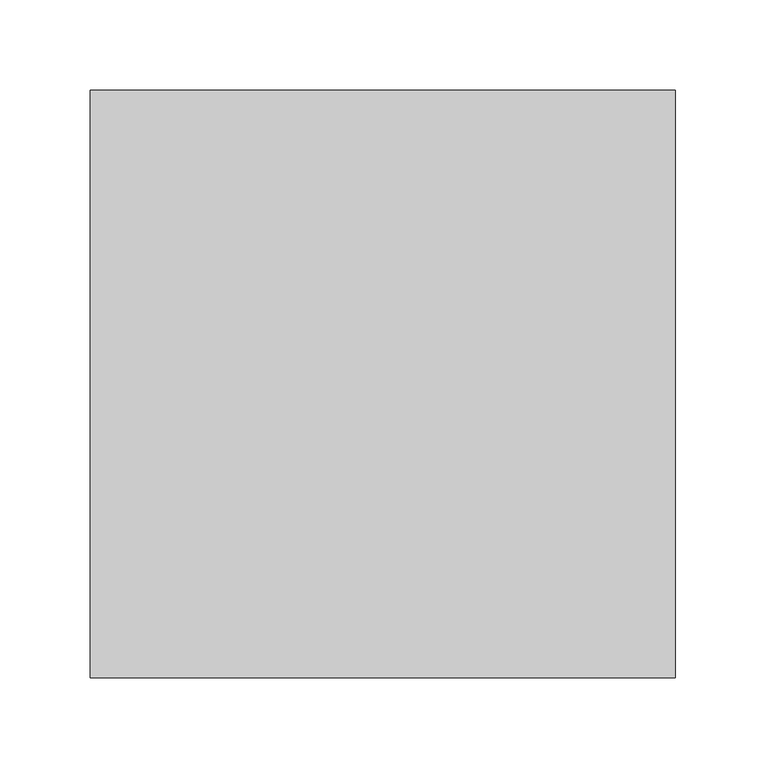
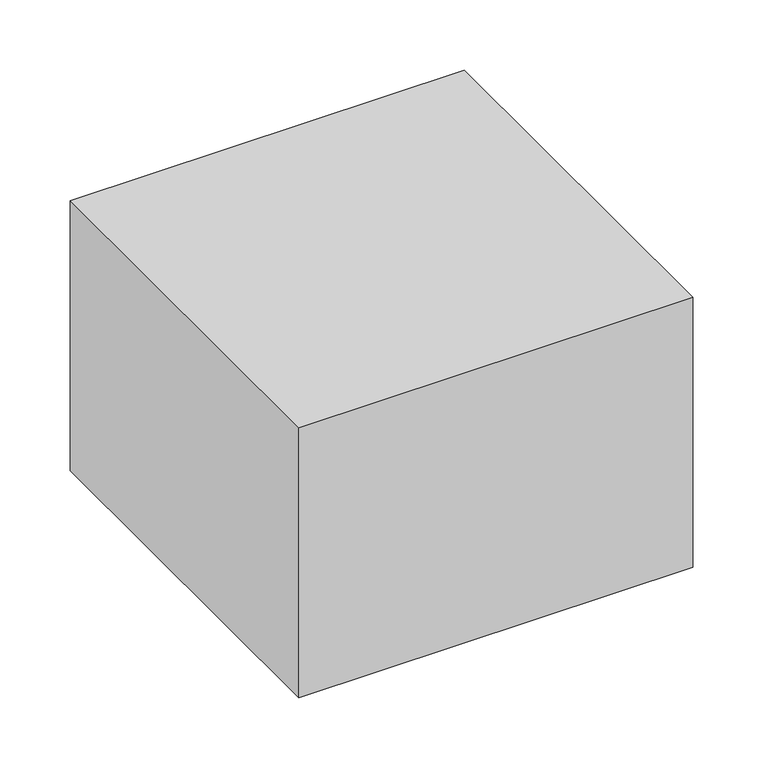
"""IFC4 building model written with IfcOpenShell, lengths in millimetres: column geometry, Column Encasement13 : Column Encasement."""

from ifc_helpers import new_model, si_unit, frame, origin, place, context, project, spatial, polyline, outline, extrude, source, transform, mapped, element, save


def column_8a827cf4(model_context):
    return source(origin(), model_context, "Body", "SweptSolid", [
        extrude(outline(polyline([(-31932.1278539, 11638.3565859), (-31932.1278539, 11964.0093679), (-31607.7840629, 11964.0093679), (-31607.7840629, 11638.3565859), (-31932.1278539, 11638.3565859)])), frame((0.0, 0.0, 7.0), z_axis=(0.0, 0.0, 1.0), x_axis=(1.0, 0.0, 0.0)), (0.0, 0.0, 1.0), 235.0),
    ])


if __name__ == "__main__":
    model = new_model("IFC4")
    model_context = context("Model", 3, world=origin())
    ifc_project = project(units=[si_unit("LENGTHUNIT", "METRE", prefix="MILLI")], contexts=[model_context])
    site = spatial("IfcSite", under=ifc_project)
    building = spatial("IfcBuilding", under=site)
    placement = place(None, origin())
    column_shape = column_8a827cf4(model_context)
    element("IfcColumn", 1, ObjectType="Column Encasement13 : Column Encasement", at=placement, inside=building, context=model_context, shape_type="MappedRepresentation", body=[
        mapped(column_shape, transform((0.0, 0.0, 0.0), x_axis=(1.0, 0.0, 0.0), y_axis=(0.0, 1.0, 0.0), z_axis=(0.0, 0.0, 1.0))),
    ])
    save(model, "model.ifc")
